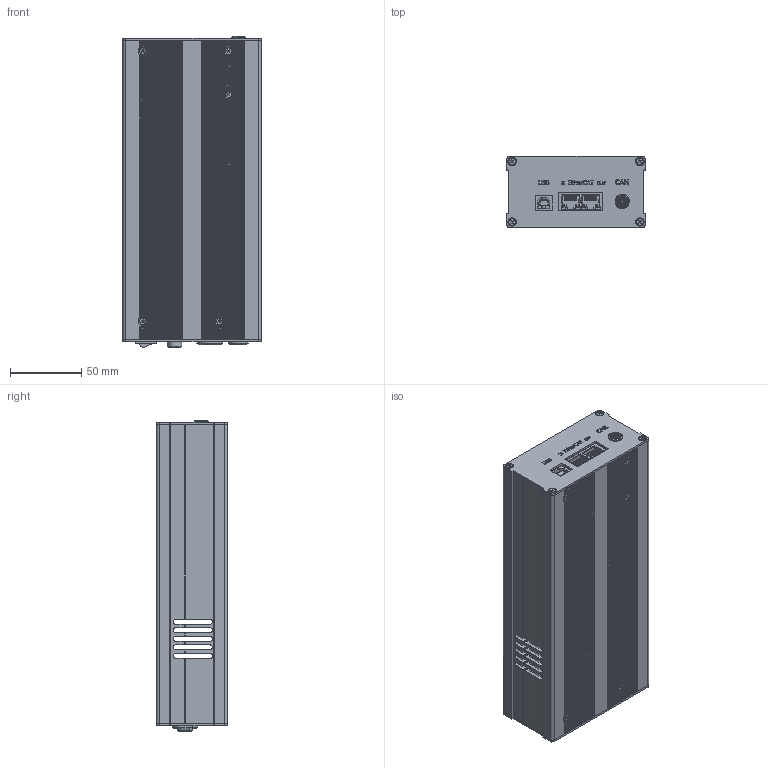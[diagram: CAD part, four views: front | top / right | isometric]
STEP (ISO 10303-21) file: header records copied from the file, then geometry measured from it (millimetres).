
FILE_DESCRIPTION (( 'STEP AP214' ), '1' );
FILE_NAME ('YFDRV04-000004 单通道驱动器.STEP', '2026-07-15T03:10:07', ( '' ), ( '' ), 'SwSTEP 2.0', 'SolidWorks 2022', '' );
FILE_SCHEMA (( 'AUTOMOTIVE_DESIGN' ));
Length unit declared in the file: millimetre
Products named in the file (1): YFDRV04-000004 单通道驱动器
Bounding box: 97 x 49.88 x 218.4 mm (x, y, z)
Surface area: 175995.5 mm2 (no closed solid volume)
Topology: 0 solids, 63 shells, 5252 faces, 14224 edges, 9234 vertices
Faces by surface type: plane 2756, cylinder 1612, bspline 623, cone 185, torus 58, sphere 18
Entity records: 268376 total; most frequent: CARTESIAN_POINT 87599, ORIENTED_EDGE 28362, DIRECTION 23997, EDGE_CURVE 14186, VERTEX_POINT 9234, VECTOR 8911, LINE 8911, AXIS2_PLACEMENT_3D 7543
